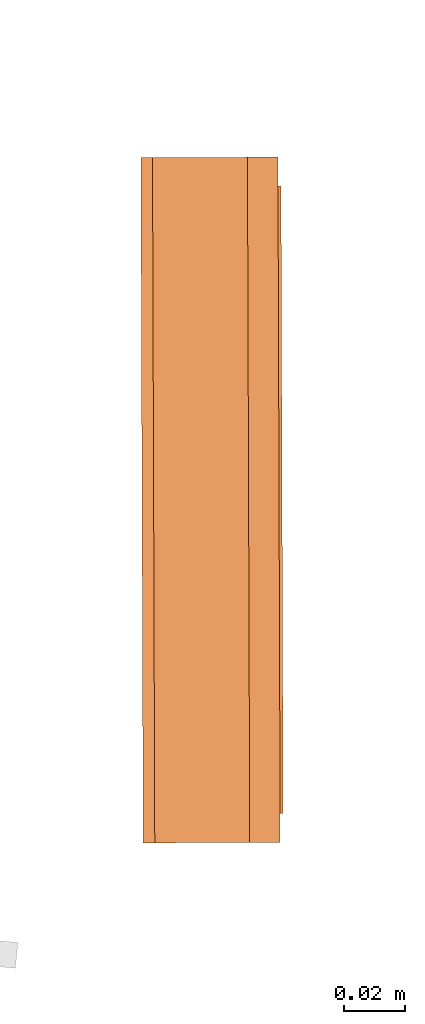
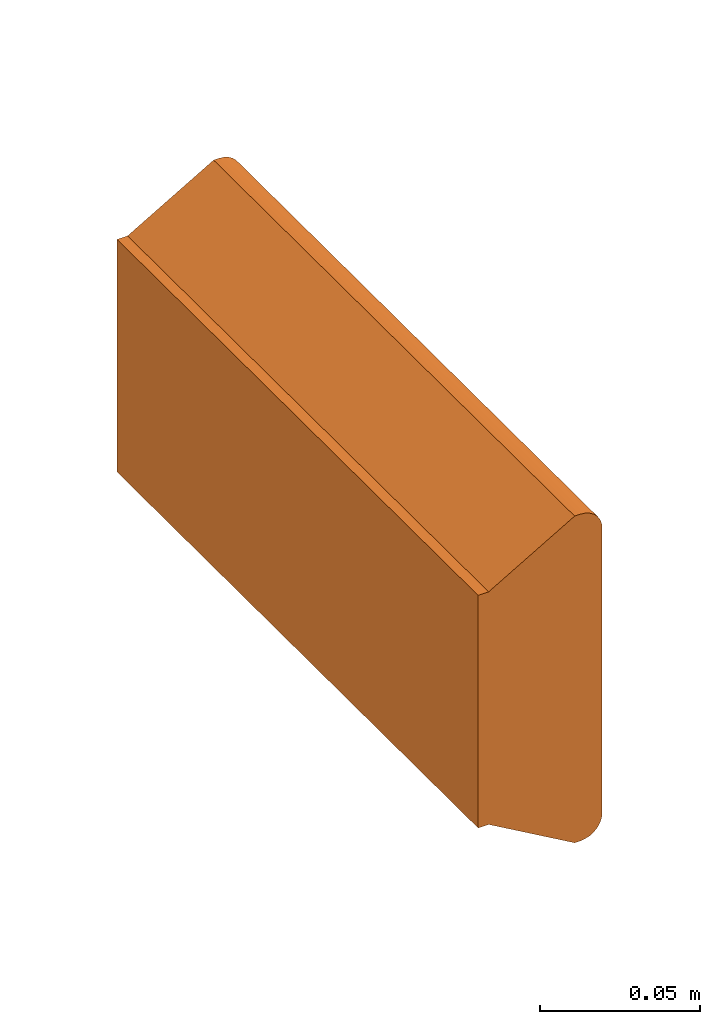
# One storey, part 82 of 197: 1 proxy.
"""IFC2X3 building model written with IfcOpenShell, lengths in metres."""

from ifc_helpers import new_model, entity, si_unit, converted_unit, direction, frame, frame_2d, origin, place, context, subcontext, project, spatial, polyline, circle_curve, parameter, trimmed, segment, composite_curve, circle, outline, extrude, source, transform, mapped, material, material_list, type_object, type_shapes, element, save


model = new_model("IFC2X3")

# Units and contexts
model_context = context("Model", 3, precision=1e-05, world=origin(), true_north=direction((6.123031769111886e-17, 1.0)))
body_context = subcontext(model_context, "Body", "Model", "MODEL_VIEW")
ifc_project = project(units=[si_unit("LENGTHUNIT", "METRE"), converted_unit("PLANEANGLEUNIT", "DEGREE", entity("IfcPlaneAngleMeasure", 0.017453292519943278), si_unit("PLANEANGLEUNIT", "RADIAN"), dimensions=[0, 0, 0, 0, 0, 0, 0]), si_unit("AREAUNIT", "SQUARE_METRE")], contexts=[model_context])

# Site, building, storey
site_placement = place(None, origin())
site = spatial("IfcSite", under=ifc_project, at=site_placement, Name="Default", CompositionType="ELEMENT")
building_placement = place(site_placement, origin())
building = spatial("IfcBuilding", under=site, at=building_placement, CompositionType="ELEMENT")
storey_placement = place(building_placement, origin())
storey = spatial("IfcBuildingStorey", under=building, at=storey_placement, Name="Niveau 0", CompositionType="ELEMENT", Elevation=0.0)

# Proxy
ifc_material_1 = material(Name="BETCE-ENVELOPPE BAES-BLANC")
ifc_material_2 = material(Name="BETCE-ETIQUETTE-VERT 0-193-0")
ifc_material_3 = material(Name="BETCE-VITRE BAES-BLEU")
ifc_material_list = material_list([ifc_material_1, ifc_material_2, ifc_material_3])
building_element_proxy_type = type_object("IfcBuildingElementProxyType", Name="Eclairage de sécurité saillie étanche mur:GAUCHE", PredefinedType="NOTDEFINED", material=ifc_material_list)
shared_shape = source(origin(), body_context, "Body", "SweptSolid", [
    extrude(outline(polyline([(-0.028959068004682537, -0.03330292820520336), (0.0122311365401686, -0.03330292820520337), (0.029966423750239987, -0.012907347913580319), (0.00310324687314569, -0.012907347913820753), (0.03240502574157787, 0.020789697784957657), (0.016088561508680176, 0.034977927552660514), (-0.013213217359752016, 0.0012808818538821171), (-0.016943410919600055, 0.02788381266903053), (-0.03467869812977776, 0.007488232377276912), (-0.028959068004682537, -0.03330292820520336)])), frame((-0.045353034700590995, -0.04599999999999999, 0.0), z_axis=(0.0, 1.0, 0.0), x_axis=(0.6561787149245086, 0.0, 0.7546055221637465)), (0.0, 0.0, 1.0), 0.0010000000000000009),
    extrude(outline(composite_curve([segment(trimmed(circle_curve(frame_2d((0.007847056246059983, -0.014059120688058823), x_axis=(-0.6437060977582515, 0.7652728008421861)), 0.0006110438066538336), [parameter(99.86253538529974)], [parameter(179.99999999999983)], True, "PARAMETER"), True, "CONTINUOUS"), segment(trimmed(circle_curve(frame_2d((0.007847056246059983, -0.014059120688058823), x_axis=(-0.6437060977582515, 0.7652728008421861)), 0.0006110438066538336), [parameter(179.99999999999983)], [parameter(260.13746546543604)], True, "PARAMETER"), True, "CONTINUOUS"), segment(polyline([(0.008375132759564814, -0.013751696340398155), (0.001174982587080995, -0.001383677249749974)]), True, "CONTINUOUS"), segment(trimmed(circle_curve(frame_2d((0.0037627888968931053, -0.0003180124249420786), x_axis=(-0.6437060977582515, 0.7652728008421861)), 0.002798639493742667), [parameter(3.811576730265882e-11)], [parameter(72.31324887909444)], True, "PARAMETER"), False, "CONTINUOUS"), segment(polyline([(0.0019612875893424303, 0.0018237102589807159), (0.015386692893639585, 0.013116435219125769)]), True, "CONTINUOUS"), segment(polyline([(0.015386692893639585, 0.013116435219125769), (0.0035080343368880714, 0.027238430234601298)]), True, "CONTINUOUS"), segment(polyline([(0.0035080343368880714, 0.027238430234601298), (-0.024968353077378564, 0.0032856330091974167)]), True, "CONTINUOUS"), segment(polyline([(-0.024968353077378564, 0.0032856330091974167), (-0.021131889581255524, -0.001275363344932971)]), True, "CONTINUOUS"), segment(polyline([(-0.021131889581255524, -0.001275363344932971), (0.007453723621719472, -0.01452673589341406)]), True, "CONTINUOUS")], self_intersect=False)), frame((0.04943108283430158, -0.04599999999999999, -0.024210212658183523), z_axis=(0.0, 1.0, 0.0), x_axis=(0.7652728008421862, 0.0, 0.6437060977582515)), (0.0, 0.0, 1.0), 0.001000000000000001),
    extrude(outline(composite_curve([segment(polyline([(-0.011174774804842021, -0.003797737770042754), (-0.011174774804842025, -0.010138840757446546)]), True, "CONTINUOUS"), segment(polyline([(-0.011174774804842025, -0.010138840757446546), (0.03194487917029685, -0.010138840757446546)]), True, "CONTINUOUS"), segment(polyline([(0.03194487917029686, -0.010138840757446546), (0.03194487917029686, -0.0024869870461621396)]), True, "CONTINUOUS"), segment(polyline([(0.03194487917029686, -0.0024869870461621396), (0.026012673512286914, -0.0024869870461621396)]), True, "CONTINUOUS"), segment(polyline([(0.026012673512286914, -0.0024869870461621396), (-0.00566103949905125, 0.01043216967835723)]), True, "CONTINUOUS"), segment(trimmed(circle_curve(frame_2d((-0.0076628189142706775, 0.006850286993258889), x_axis=(1.0, 0.0)), 0.004103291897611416), [parameter(60.800818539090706)], [parameter(115.83024310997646)], True, "PARAMETER"), True, "CONTINUOUS"), segment(polyline([(-0.009450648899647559, 0.010543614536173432), (-0.02014056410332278, 0.005368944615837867)]), True, "CONTINUOUS"), segment(trimmed(circle_curve(frame_2d((-0.01977914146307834, 0.004900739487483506), x_axis=(1.0, 0.0)), 0.0005914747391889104), [parameter(127.66570843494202)], [parameter(232.33429156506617)], True, "PARAMETER"), True, "CONTINUOUS"), segment(polyline([(-0.02014056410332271, 0.004432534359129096), (-0.012160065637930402, -0.0017278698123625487)]), True, "CONTINUOUS"), segment(trimmed(circle_curve(frame_2d((-0.013841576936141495, -0.003797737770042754), x_axis=(1.0, 0.0)), 0.0026668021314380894), [parameter(7.124442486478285e-13)], [parameter(50.91041679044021)], True, "PARAMETER"), False, "CONTINUOUS")], self_intersect=False)), frame((0.0281756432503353, -0.046, -0.010852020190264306), z_axis=(0.0, -1.0, 0.0), x_axis=(0.0, 0.0, -1.0)), (0.0, 0.0, -1.0), 0.001000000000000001),
    extrude(outline(composite_curve([segment(polyline([(-0.031714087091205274, -0.031123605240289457), (0.019898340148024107, -0.031123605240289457)]), True, "CONTINUOUS"), segment(polyline([(0.019898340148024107, -0.031123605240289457), (0.01989834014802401, 0.026433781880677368)]), True, "CONTINUOUS"), segment(polyline([(0.01989834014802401, 0.026433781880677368), (0.006609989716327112, 0.026433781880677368)]), True, "CONTINUOUS"), segment(trimmed(circle_curve(frame_2d((0.006609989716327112, 0.02583378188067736), x_axis=(0.0, 1.0)), 0.0006000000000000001), [parameter(0.0)], [parameter(83.97510158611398)], True, "PARAMETER"), True, "CONTINUOUS"), segment(polyline([(0.006013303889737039, 0.025896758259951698), (0.004507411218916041, 0.011628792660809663)]), True, "CONTINUOUS"), segment(trimmed(circle_curve(frame_2d((-0.009425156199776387, 0.013099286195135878), x_axis=(0.0, 1.0)), 0.014009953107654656), [parameter(240.55607644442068)], [parameter(263.9751015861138)], True, "PARAMETER"), False, "CONTINUOUS"), segment(polyline([(0.002775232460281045, 0.006212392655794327), (-0.003131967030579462, -0.00515324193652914)]), True, "CONTINUOUS"), segment(polyline([(-0.003131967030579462, -0.00515324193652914), (0.0052180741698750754, -0.0051532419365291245)]), True, "CONTINUOUS"), segment(polyline([(0.0052180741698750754, -0.0051532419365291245), (0.011569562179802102, 0.0044364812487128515)]), True, "CONTINUOUS"), segment(trimmed(circle_curve(frame_2d((0.013690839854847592, 0.002734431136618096), x_axis=(0.0, 1.0)), 0.0027197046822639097), [parameter(327.3277331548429)], [parameter(51.25747909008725)], True, "PARAMETER"), False, "CONTINUOUS"), segment(trimmed(circle_curve(frame_2d((0.013690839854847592, 0.0027344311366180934), x_axis=(0.0, 1.0)), 0.0027197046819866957), [parameter(243.39798722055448)], [parameter(327.327733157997)], True, "PARAMETER"), False, "CONTINUOUS"), segment(polyline([(0.016122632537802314, 0.0015165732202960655), (0.00885761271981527, -0.009515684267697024)]), True, "CONTINUOUS"), segment(trimmed(circle_curve(frame_2d((0.004813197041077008, -0.005807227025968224), x_axis=(0.0, 1.0)), 0.0054872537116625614), [parameter(181.8824185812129)], [parameter(227.48126930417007)], True, "PARAMETER"), False, "CONTINUOUS"), segment(polyline([(0.004993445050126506, -0.011291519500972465), (-0.009885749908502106, -0.011291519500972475)]), True, "CONTINUOUS"), segment(trimmed(circle_curve(frame_2d((-0.009885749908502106, 0.0017012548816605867), x_axis=(0.0, 1.0)), 0.012992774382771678), [parameter(133.55500193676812)], [parameter(179.9999999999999)], True, "PARAMETER"), False, "CONTINUOUS"), segment(polyline([(-0.019301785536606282, -0.007251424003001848), (-0.02587529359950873, 0.0021607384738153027)]), True, "CONTINUOUS"), segment(polyline([(-0.02587529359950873, 0.0021607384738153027), (-0.03171408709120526, 0.0021607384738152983)]), True, "CONTINUOUS"), segment(polyline([(-0.03171408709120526, 0.0021607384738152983), (-0.031714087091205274, -0.031123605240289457)]), True, "CONTINUOUS")], self_intersect=False), holes=[composite_curve([segment(trimmed(circle_curve(frame_2d((-0.015960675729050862, -0.017960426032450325), x_axis=(0.0, 1.0)), 0.005405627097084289), [parameter(269.999999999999)], [parameter(359.99999999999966)], True, "PARAMETER"), False, "CONTINUOUS"), segment(trimmed(circle_curve(frame_2d((-0.015960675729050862, -0.017960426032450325), x_axis=(0.0, 1.0)), 0.005405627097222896), [parameter(180.00000000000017)], [parameter(270.0)], True, "PARAMETER"), False, "CONTINUOUS"), segment(trimmed(circle_curve(frame_2d((-0.015960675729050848, -0.017960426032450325), x_axis=(0.0, 1.0)), 0.005405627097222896), [parameter(89.99999999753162)], [parameter(179.9999999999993)], True, "PARAMETER"), False, "CONTINUOUS"), segment(trimmed(circle_curve(frame_2d((-0.015960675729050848, -0.017960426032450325), x_axis=(0.0, 1.0)), 0.005405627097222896), [parameter(359.99999999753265)], [parameter(89.99999999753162)], True, "PARAMETER"), False, "CONTINUOUS")], self_intersect=False)]), frame((0.04975088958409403, -0.04599999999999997, 0.008704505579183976), z_axis=(0.0, 1.0, 0.0), x_axis=(1.0, 0.0, 0.0)), (0.0, 0.0, 1.0), 0.001000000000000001),
    extrude(outline(polyline([(-0.05249999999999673, -0.10299999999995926), (0.05249999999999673, -0.10299999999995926), (0.05249999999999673, 0.10299999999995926), (-0.05249999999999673, 0.10299999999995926), (-0.05249999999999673, -0.10299999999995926)]), holes=[polyline([(0.0, 0.08948593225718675), (0.03108235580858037, 0.062457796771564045), (0.031082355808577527, 0.035429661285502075), (0.010811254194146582, 0.05305670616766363), (0.010811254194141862, 0.0084015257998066), (-0.010811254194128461, 0.008401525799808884), (-0.01081125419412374, 0.05305670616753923), (-0.03108235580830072, 0.03542966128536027), (-0.031082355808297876, 0.062457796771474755), (0.0, 0.08948593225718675)]), composite_curve([segment(polyline([(-0.03982811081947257, -0.018036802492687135), (-0.006543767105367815, -0.018036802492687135)]), True, "CONTINUOUS"), segment(polyline([(-0.006543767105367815, -0.018036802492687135), (-0.006543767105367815, -0.02387559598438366)]), True, "CONTINUOUS"), segment(polyline([(-0.006543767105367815, -0.02387559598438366), (-0.01595592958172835, -0.0304491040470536)]), True, "CONTINUOUS"), segment(trimmed(circle_curve(frame_2d((-0.007003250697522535, -0.039865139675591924), x_axis=(-1.0, 0.0)), 0.012992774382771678), [parameter(313.55500193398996)], [parameter(3.5622212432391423e-13)], True, "PARAMETER"), True, "CONTINUOUS"), segment(polyline([(-0.019996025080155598, -0.039865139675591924), (-0.019996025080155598, -0.05474433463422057)]), True, "CONTINUOUS"), segment(trimmed(circle_curve(frame_2d((-0.014511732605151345, -0.05456408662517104), x_axis=(-1.0, 0.0)), 0.0054872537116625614), [parameter(1.8824185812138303)], [parameter(47.481269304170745)], True, "PARAMETER"), True, "CONTINUOUS"), segment(polyline([(-0.018220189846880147, -0.0586085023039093), (-0.0071879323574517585, -0.0658735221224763)]), True, "CONTINUOUS"), segment(trimmed(circle_curve(frame_2d((-0.005970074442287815, -0.06344172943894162), x_axis=(-1.0, 0.0)), 0.0027197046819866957), [parameter(63.39798724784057)], [parameter(147.32773315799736)], True, "PARAMETER"), True, "CONTINUOUS"), segment(trimmed(circle_curve(frame_2d((-0.005970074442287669, -0.06344172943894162), x_axis=(-1.0, 0.0)), 0.0027197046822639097), [parameter(147.3277331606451)], [parameter(231.25747905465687)], True, "PARAMETER"), True, "CONTINUOUS"), segment(polyline([(-0.0042680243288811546, -0.061320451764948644), (-0.013857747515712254, -0.05496896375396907)]), True, "CONTINUOUS"), segment(polyline([(-0.013857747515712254, -0.05496896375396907), (-0.013857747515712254, -0.046618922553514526)]), True, "CONTINUOUS"), segment(polyline([(-0.013857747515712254, -0.046618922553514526), (-0.002492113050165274, -0.052526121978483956)]), True, "CONTINUOUS"), segment(trimmed(circle_curve(frame_2d((0.004394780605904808, -0.04032573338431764), x_axis=(-1.0, 0.0)), 0.014009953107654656), [parameter(60.556075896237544)], [parameter(83.9751015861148)], True, "PARAMETER"), True, "CONTINUOUS"), segment(polyline([(0.0029242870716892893, -0.05425830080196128), (0.017192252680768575, -0.05576419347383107)]), True, "CONTINUOUS"), segment(trimmed(circle_curve(frame_2d((0.017129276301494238, -0.05636087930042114), x_axis=(-1.0, 0.0)), 0.0006000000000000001), [parameter(180.00000000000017)], [parameter(263.9751015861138)], True, "PARAMETER"), False, "CONTINUOUS"), segment(polyline([(0.017729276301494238, -0.05636087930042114), (0.017729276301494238, -0.06964922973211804)]), True, "CONTINUOUS"), segment(polyline([(0.017729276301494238, -0.06964922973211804), (-0.03982811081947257, -0.06964922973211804)]), True, "CONTINUOUS"), segment(polyline([(-0.03982811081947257, -0.06964922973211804), (-0.03982811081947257, -0.018036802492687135)]), True, "CONTINUOUS")], self_intersect=False), composite_curve([segment(polyline([(0.042796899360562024, -0.06964922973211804), (0.024343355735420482, -0.06964922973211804)]), True, "CONTINUOUS"), segment(polyline([(0.024343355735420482, -0.06964922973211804), (0.024343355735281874, -0.05210593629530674)]), True, "CONTINUOUS"), segment(trimmed(circle_curve(frame_2d((0.0215447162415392, -0.05210593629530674), x_axis=(-1.0, 0.0)), 0.002798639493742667), [parameter(179.99999999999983)], [parameter(252.3132488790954)], True, "PARAMETER"), True, "CONTINUOUS"), segment(polyline([(0.022394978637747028, -0.04943958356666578), (0.008295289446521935, -0.04698829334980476)]), True, "CONTINUOUS"), segment(trimmed(circle_curve(frame_2d((0.008399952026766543, -0.04638627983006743), x_axis=(-1.0, 0.0)), 0.0006110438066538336), [parameter(0.0)], [parameter(80.13746546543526)], True, "PARAMETER"), False, "CONTINUOUS"), segment(trimmed(circle_curve(frame_2d((0.008399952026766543, -0.04638627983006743), x_axis=(-1.0, 0.0)), 0.0006110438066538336), [parameter(279.86253451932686)], [parameter(0.0)], True, "PARAMETER"), False, "CONTINUOUS"), segment(polyline([(0.008295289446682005, -0.04578426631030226), (0.03683693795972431, -0.03243846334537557)]), True, "CONTINUOUS"), segment(polyline([(0.03683693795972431, -0.03243846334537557), (0.042796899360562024, -0.03243846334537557)]), True, "CONTINUOUS"), segment(polyline([(0.042796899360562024, -0.03243846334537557), (0.042796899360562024, -0.06964922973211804)]), True, "CONTINUOUS")], self_intersect=False), composite_curve([segment(polyline([(0.042796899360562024, -0.018036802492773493), (0.042796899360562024, -0.025688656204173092)]), True, "CONTINUOUS"), segment(polyline([(0.042796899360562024, -0.025688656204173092), (0.03686469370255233, -0.025688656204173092)]), True, "CONTINUOUS"), segment(polyline([(0.03686469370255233, -0.025688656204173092), (0.005190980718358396, -0.03860781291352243)]), True, "CONTINUOUS"), segment(trimmed(circle_curve(frame_2d((0.0031892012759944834, -0.03502593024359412), x_axis=(-1.0, 0.0)), 0.004103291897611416), [parameter(64.16975689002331)], [parameter(119.19918189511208)], True, "PARAMETER"), False, "CONTINUOUS"), segment(polyline([(0.001401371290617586, -0.03871925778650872), (-0.009288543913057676, -0.03354458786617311)]), True, "CONTINUOUS"), segment(trimmed(circle_curve(frame_2d((-0.008927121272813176, -0.03307638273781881), x_axis=(-1.0, 0.0)), 0.0005914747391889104), [parameter(307.6657084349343)], [parameter(52.33429156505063)], True, "PARAMETER"), False, "CONTINUOUS"), segment(polyline([(-0.009288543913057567, -0.032608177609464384), (-0.0013080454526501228, -0.02644777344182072)]), True, "CONTINUOUS"), segment(trimmed(circle_curve(frame_2d((-0.002989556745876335, -0.024377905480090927), x_axis=(-1.0, 0.0)), 0.0026668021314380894), [parameter(129.08958307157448)], [parameter(180.00000000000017)], True, "PARAMETER"), True, "CONTINUOUS"), segment(polyline([(-0.00032275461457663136, -0.02437790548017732), (-0.00032275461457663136, -0.018036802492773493)]), True, "CONTINUOUS"), segment(polyline([(-0.00032275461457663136, -0.018036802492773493), (0.042796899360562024, -0.018036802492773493)]), True, "CONTINUOUS")], self_intersect=False)]), frame((0.0, -0.046, 0.0), z_axis=(0.0, 1.0, 0.0), x_axis=(0.0, 0.0, -1.0)), (0.0, 0.0, 1.0), 0.001000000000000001),
    extrude(circle(Radius=0.005405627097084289, at=frame_2d((0.0, -2.3552360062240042e-14), x_axis=(1.0, 0.0))), frame((0.03379021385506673, -0.046, 0.0266649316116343), z_axis=(0.0, 1.0, 0.0), x_axis=(0.0, 0.0, 1.0)), (0.0, 0.0, 1.0), 0.001000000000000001),
    extrude(outline(composite_curve([segment(trimmed(circle_curve(frame_2d((-0.0020000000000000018, -0.054499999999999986), x_axis=(1.0, 0.0)), 0.008), [parameter(270.0000000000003)], [parameter(3.5622212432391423e-13)], True, "PARAMETER"), True, "CONTINUOUS"), segment(polyline([(0.005999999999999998, -0.05449999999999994), (0.005999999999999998, 0.05450000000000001)]), True, "CONTINUOUS"), segment(trimmed(circle_curve(frame_2d((-0.0020000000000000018, 0.05450000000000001), x_axis=(1.0, 0.0)), 0.008), [parameter(359.9999999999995)], [parameter(89.99999999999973)], True, "PARAMETER"), True, "CONTINUOUS"), segment(polyline([(-0.001999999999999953, 0.06250000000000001), (-0.003999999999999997, 0.06250000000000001)]), True, "CONTINUOUS"), segment(polyline([(-0.003999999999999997, 0.06250000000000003), (-0.003999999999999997, -0.062499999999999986)]), True, "CONTINUOUS"), segment(polyline([(-0.003999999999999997, -0.0625), (-0.0020000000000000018, -0.0625)]), True, "CONTINUOUS")], self_intersect=False)), frame((-0.1125, -0.039, -0.0019999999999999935), z_axis=(1.0, 0.0, 0.0), x_axis=(0.0, -1.0, 0.0)), (0.0, 0.0, 1.0), 0.22499999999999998),
    extrude(outline(polyline([(-0.0625, -0.02205897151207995), (0.0625, -0.02205897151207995), (0.04449999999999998, 0.009117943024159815), (0.04449999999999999, 0.01294102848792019), (-0.04449999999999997, 0.012941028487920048), (-0.04449999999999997, 0.009117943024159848), (-0.0625, -0.02205897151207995)])), frame((-0.1125, -0.012941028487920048, -0.002000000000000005), z_axis=(1.0, 0.0, 0.0), x_axis=(0.0, 0.0, -1.0)), (0.0, 0.0, 1.0), 0.225),
])
type_shapes(building_element_proxy_type, [shared_shape])
proxy_placement = place(storey_placement, frame((21.922255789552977, 146.72994250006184, 2.415354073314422), z_axis=(0.0, 0.0, 1.0), x_axis=(-0.003320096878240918, 0.9999944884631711, 0.0)))
element("IfcBuildingElementProxy", 1, at=proxy_placement, inside=storey, type_object=building_element_proxy_type, material=ifc_material_list, Name="Eclairage de sécurité saillie étanche mur:GAUCHE", ObjectType="Eclairage de sécurité saillie étanche mur:GAUCHE", context=body_context, shape_type="MappedRepresentation", body=[
    mapped(shared_shape, transform((0.0, 0.0, 0.0), scale=1.0)),
])

save(model, "model.ifc")
